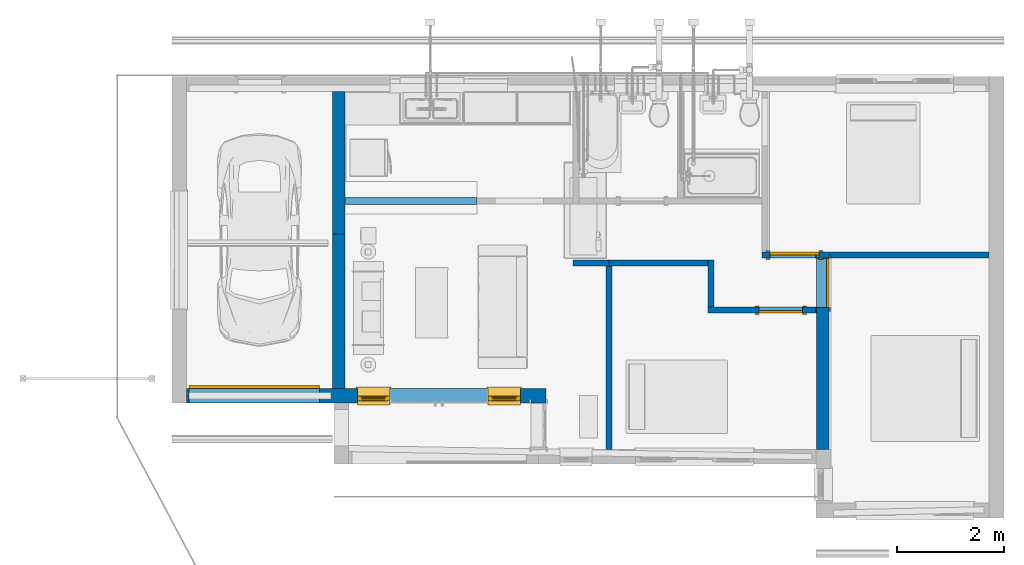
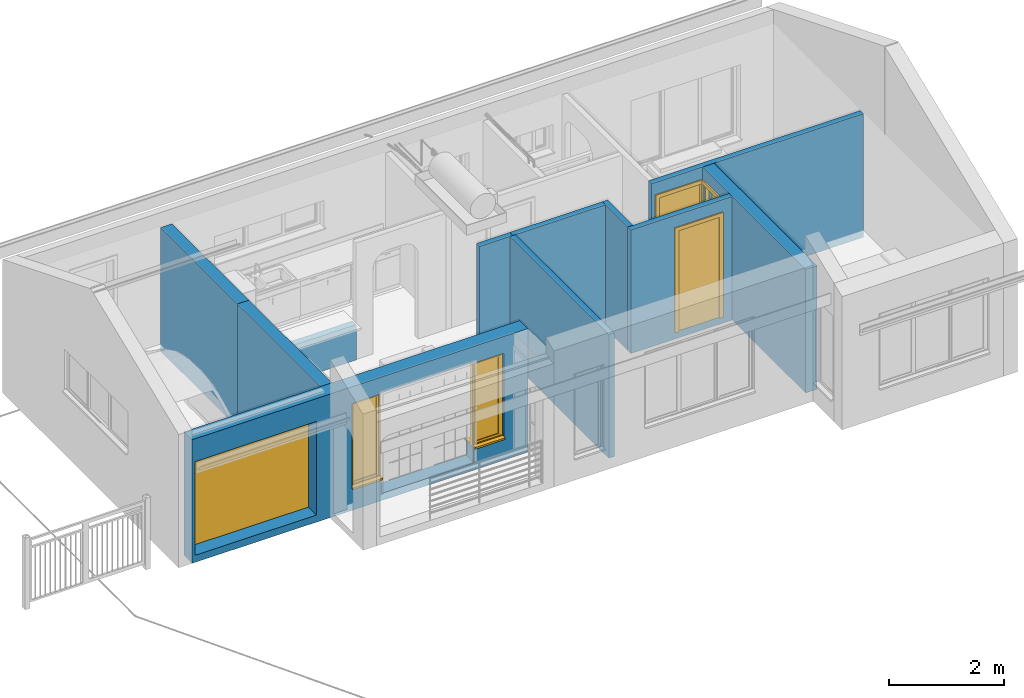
# One storey, part 3 of 41: 11 walls, 4 doors, 2 windows, 8 openings.
"""IFC2X3 building model written with IfcOpenShell, lengths in millimetres."""

import ifcopenshell
import ifcopenshell.guid

model = None  # the IFC model being written
_history = None  # IfcOwnerHistory: only IFC2X3 demands one
_inside = {}  # id of a spatial element -> (the spatial element, [elements in it])
_under = {}  # id of a project, library or spatial element -> (it, [spatial elements below it])
_declared = {}  # id of a project -> (the project, [libraries it declares])
_typed = {}  # id of a type object -> (the type object, [elements of that type])
_made_of = {}  # id of a material, layer set ... -> (it, [elements and type objects made of it])


def new_model(schema):
    """Start an empty IFC model of exactly this schema.

    Asked for "IFC4X3", IfcOpenShell would pick the latest addendum, in which some entities
    have other attributes; the version numbers below select the first issue.
    IFC2X3 requires an IfcOwnerHistory on every rooted entity: one is made here for all.
    """
    global model, _history
    if schema == "IFC4X3":
        model = ifcopenshell.file(schema_version=(4, 3, 0, 0))
    else:
        model = ifcopenshell.file(schema=schema)
    _inside.clear()
    _under.clear()
    _declared.clear()
    _typed.clear()
    _made_of.clear()
    _history = None
    if model.schema == "IFC2X3":
        org = make("IfcOrganization", Name="unknown")
        user = make(
            "IfcPersonAndOrganization",
            ThePerson=make("IfcPerson", FamilyName="unknown"),
            TheOrganization=org,
        )
        app = make(
            "IfcApplication",
            ApplicationDeveloper=org,
            Version="unknown",
            ApplicationFullName="unknown",
            ApplicationIdentifier="unknown",
        )
        _history = make(
            "IfcOwnerHistory",
            OwningUser=user,
            OwningApplication=app,
            ChangeAction="ADDED",
            CreationDate=0,
        )
    return model


def make(cls, **values):
    """One entity of the class cls with the attributes given. An attribute that is None is left unset."""
    return model.create_entity(
        cls, **{name: value for name, value in values.items() if value is not None}
    )


def entity(cls, *values):
    """Any entity or typed value of the class cls, its attributes in the order of the schema. None: left unset."""
    e = model.create_entity(cls)
    for i, value in enumerate(values):
        if value is not None:
            e[i] = value
    return e


def rooted(cls, **values):
    """An entity with a GlobalId (a new one), such as an element, a storey or a relation."""
    return make(cls, GlobalId=ifcopenshell.guid.new(), OwnerHistory=_history, **values)


def si_unit(unit_type, name, prefix=None):
    """IfcSIUnit, for example si_unit("LENGTHUNIT", "METRE", prefix="MILLI")."""
    return make("IfcSIUnit", UnitType=unit_type, Prefix=prefix, Name=name)


def converted_unit(unit_type, name, factor, base, dimensions=None, offset=None):
    """IfcConversionBasedUnit, such as the inch: factor (a typed value) times the base unit."""
    return make(
        "IfcConversionBasedUnit"
        if offset is None
        else "IfcConversionBasedUnitWithOffset",
        ConversionOffset=offset,
        Dimensions=None
        if dimensions is None
        else entity("IfcDimensionalExponents", *dimensions),
        UnitType=unit_type,
        Name=name,
        ConversionFactor=make(
            "IfcMeasureWithUnit", ValueComponent=factor, UnitComponent=base
        ),
    )


def derived_unit(unit_type, elements):
    """IfcDerivedUnit: a product of units, each with its exponent."""
    return make(
        "IfcDerivedUnit",
        Elements=[
            make("IfcDerivedUnitElement", Unit=unit, Exponent=power)
            for unit, power in elements
        ],
        UnitType=unit_type,
    )


def assignment(units):
    """IfcUnitAssignment: the units of a project."""
    return None if units is None else make("IfcUnitAssignment", Units=units)


def point(xyz):
    """IfcCartesianPoint."""
    return None if xyz is None else make("IfcCartesianPoint", Coordinates=xyz)


def direction(xyz):
    """IfcDirection."""
    return None if xyz is None else make("IfcDirection", DirectionRatios=xyz)


def frame(location, z_axis=None, x_axis=None):
    """IfcAxis2Placement3D, a coordinate frame: its origin and axes. An axis left out is left unset."""
    return make(
        "IfcAxis2Placement3D",
        Location=point(location),
        Axis=direction(z_axis),
        RefDirection=direction(x_axis),
    )


def frame_2d(location, x_axis=None):
    """IfcAxis2Placement2D, a coordinate frame in the plane: its origin and x axis."""
    return make(
        "IfcAxis2Placement2D", Location=point(location), RefDirection=direction(x_axis)
    )


def origin():
    """The frame at (0, 0, 0) with its axes left unset."""
    return frame((0.0, 0.0, 0.0))


def origin_2d_with_axis():
    """The frame at (0, 0) in the plane with the x axis (1, 0) written out."""
    return frame_2d((0.0, 0.0), x_axis=(1.0, 0.0))


def place(relative_to, where):
    """IfcLocalPlacement: puts the frame where relative to a parent placement (None: the world)."""
    return make(
        "IfcLocalPlacement", PlacementRelTo=relative_to, RelativePlacement=where
    )


def context(
    kind, dimensions, precision=None, world=None, true_north=None, identifier=None
):
    """IfcGeometricRepresentationContext, for example the 3D "Model" context."""
    return make(
        "IfcGeometricRepresentationContext",
        ContextIdentifier=identifier,
        ContextType=kind,
        CoordinateSpaceDimension=dimensions,
        Precision=precision,
        WorldCoordinateSystem=world,
        TrueNorth=true_north,
    )


def subcontext(parent, identifier, kind, view, scale=None):
    """IfcGeometricRepresentationSubContext, for example "Body" below "Model"."""
    return make(
        "IfcGeometricRepresentationSubContext",
        ContextIdentifier=identifier,
        ContextType=kind,
        ParentContext=parent,
        TargetScale=scale,
        TargetView=view,
    )


def project(units=None, contexts=None):
    """IfcProject with its units and contexts."""
    return rooted(
        "IfcProject",
        Name="project",
        RepresentationContexts=contexts,
        UnitsInContext=assignment(units),
    )


def spatial(cls, under=None, at=None, **own):
    """A site, building, storey or space (cls), placed at a placement, below another one or the project."""
    s = rooted(cls, ObjectPlacement=at, **own)
    if under is not None:
        _under.setdefault(under.id(), (under, []))[1].append(s)
    return s


def polyline(points):
    """IfcPolyline through the points."""
    return make("IfcPolyline", Points=[point(p) for p in points])


def profile(cls, at=None, kind="AREA", **sizes):
    """A parametric profile (cls). Its sizes go by their IFC names, for example OverallWidth=200.0."""
    return make(cls, ProfileType=kind, Position=at, **sizes)


def rectangle(**sizes):
    """IfcRectangleProfileDef."""
    return profile("IfcRectangleProfileDef", **sizes)


def outline(outer, holes=None, kind="AREA"):
    """IfcArbitraryClosedProfileDef: a profile drawn as a closed curve; with holes, ...WithVoids."""
    if holes is None:
        return make("IfcArbitraryClosedProfileDef", ProfileType=kind, OuterCurve=outer)
    return make(
        "IfcArbitraryProfileDefWithVoids",
        ProfileType=kind,
        OuterCurve=outer,
        InnerCurves=holes,
    )


def extrude(swept, where, along, depth):
    """IfcExtrudedAreaSolid: the profile swept, set in the frame where, extruded along a direction by depth."""
    return make(
        "IfcExtrudedAreaSolid",
        SweptArea=swept,
        Position=where,
        ExtrudedDirection=direction(along),
        Depth=depth,
    )


def faces_of(points, faces, orient=None, outer=None):
    """IfcFace entities. A face is a list of loops; a loop is a list of indices into points, from 0.

    orient and outer hold one flag for each loop. By default every Orientation is true, the
    first loop of a face is its IfcFaceOuterBound and the others are IfcFaceBound.
    """
    made = []
    for i, loops in enumerate(faces):
        bounds = []
        for j, loop in enumerate(loops):
            is_outer = j == 0 if outer is None else outer[i][j]
            bounds.append(
                make(
                    "IfcFaceOuterBound" if is_outer else "IfcFaceBound",
                    Bound=make("IfcPolyLoop", Polygon=[points[k] for k in loop]),
                    Orientation=True if orient is None else orient[i][j],
                )
            )
        made.append(make("IfcFace", Bounds=bounds))
    return made


def faceted_brep(points, faces, orient=None, outer=None, voids=None):
    """IfcFacetedBrep: a solid bounded by flat faces; with voids (closed shells), ...WithVoids."""
    shared = [point(p) for p in points]
    hull = make("IfcClosedShell", CfsFaces=faces_of(shared, faces, orient, outer))
    if voids is None:
        return make("IfcFacetedBrep", Outer=hull)
    return make(
        "IfcFacetedBrepWithVoids",
        Outer=hull,
        Voids=[
            make(cls, CfsFaces=faces_of(shared, fs, o, b)) for cls, fs, o, b in voids
        ],
    )


def shape(context_of_items, identifier, shape_type, items):
    """IfcShapeRepresentation: the items that make up one representation, for example the "Body"."""
    return make(
        "IfcShapeRepresentation",
        ContextOfItems=context_of_items,
        RepresentationIdentifier=identifier,
        RepresentationType=shape_type,
        Items=items,
    )


def source(mapping_origin, context_of_items, identifier, shape_type, items):
    """IfcRepresentationMap: a shape defined once, which mapped items show again and again."""
    return make(
        "IfcRepresentationMap",
        MappingOrigin=mapping_origin,
        MappedRepresentation=shape(context_of_items, identifier, shape_type, items),
    )


def transform(
    local_origin,
    x_axis=None,
    y_axis=None,
    z_axis=None,
    scale=None,
    scale2=None,
    scale3=None,
    uniform=True,
):
    """IfcCartesianTransformationOperator3D, or its non-uniform kind. x_axis, y_axis, z_axis: its Axis1, 2, 3."""
    if uniform:
        return make(
            "IfcCartesianTransformationOperator3D",
            Axis1=direction(x_axis),
            Axis2=direction(y_axis),
            LocalOrigin=point(local_origin),
            Scale=scale,
            Axis3=direction(z_axis),
        )
    return make(
        "IfcCartesianTransformationOperator3DnonUniform",
        Axis1=direction(x_axis),
        Axis2=direction(y_axis),
        LocalOrigin=point(local_origin),
        Scale=scale,
        Axis3=direction(z_axis),
        Scale2=scale2,
        Scale3=scale3,
    )


def mapped(mapping_source, mapping_target):
    """IfcMappedItem: shows the shape of a source again, moved by a transform."""
    return make(
        "IfcMappedItem", MappingSource=mapping_source, MappingTarget=mapping_target
    )


def material(Name=None, Category=None):
    """IfcMaterial."""
    return make("IfcMaterial", Name=Name, Category=Category)


def material_list(materials):
    """IfcMaterialList."""
    return make("IfcMaterialList", Materials=materials)


def layer(
    of_material, thickness, ventilated=None, Name=None, Category=None, Priority=None
):
    """IfcMaterialLayer: one layer of a wall or slab, of a material (None: an air gap)."""
    return make(
        "IfcMaterialLayer",
        Material=of_material,
        LayerThickness=thickness,
        IsVentilated=ventilated,
        Name=Name,
        Category=Category,
        Priority=Priority,
    )


def layer_set(layers, Name=None):
    """IfcMaterialLayerSet."""
    return make("IfcMaterialLayerSet", MaterialLayers=layers, LayerSetName=Name)


def layer_usage(for_layer_set, set_direction, sense, offset, extent=None):
    """IfcMaterialLayerSetUsage: how a layer set lies in its element."""
    return make(
        "IfcMaterialLayerSetUsage",
        ForLayerSet=for_layer_set,
        LayerSetDirection=set_direction,
        DirectionSense=sense,
        OffsetFromReferenceLine=offset,
        ReferenceExtent=extent,
    )


def made_of(thing, what):
    """Note that an element or type object is made of a material, layer set ...; save() writes the relation."""
    if what is not None:
        _made_of.setdefault(what.id(), (what, []))[1].append(thing)
    return thing


def type_object(cls, material=None, **own):
    """A type object (cls), such as IfcWallType, which elements share."""
    return made_of(rooted(cls, **own), material)


def type_shapes(of_type, sources):
    """Give a type object the sources (RepresentationMaps) that its elements show as mapped items."""
    of_type.RepresentationMaps = sources


def element(
    cls,
    number,
    at=None,
    inside=None,
    cuts=None,
    type_object=None,
    material=None,
    context=None,
    identifier="Body",
    shape_type=None,
    held_by="IfcProductDefinitionShape",
    body=None,
    shapes=None,
    **own,
):
    """One element of the class cls, such as IfcWall. Its Tag is "e" and its number.

    at: its placement. inside: the storey or other place that contains it. cuts: it is an
    opening in that element (IfcRelVoidsElement). A single representation is given by context,
    identifier, shape_type and body (its items); several are given by shapes. held_by: the class
    of the entity that holds the representations. save() writes the other relations.
    """
    e = rooted(cls, Tag="e%d" % number, ObjectPlacement=at, **own)
    if body is not None:
        shapes = [shape(context, identifier, shape_type, body)]
    if shapes is not None:
        e.Representation = make(held_by, Representations=shapes)
    if inside is not None:
        _inside.setdefault(inside.id(), (inside, []))[1].append(e)
    if cuts is not None:
        rooted(
            "IfcRelVoidsElement", RelatingBuildingElement=cuts, RelatedOpeningElement=e
        )
    if type_object is not None:
        _typed.setdefault(type_object.id(), (type_object, []))[1].append(e)
    return made_of(e, material)


def fill(opening, filler):
    """IfcRelFillsElement: the door or window that sits in an opening."""
    return rooted(
        "IfcRelFillsElement",
        RelatingOpeningElement=opening,
        RelatedBuildingElement=filler,
    )


def aggregate(whole, parts):
    """IfcRelAggregates: a whole, such as a stair, and the parts it consists of."""
    return rooted("IfcRelAggregates", RelatingObject=whole, RelatedObjects=parts)


def save(model, path):
    """Write the relations noted so far, then the file.

    IfcRelAggregates (storeys below a building ...), IfcRelContainedInSpatialStructure (elements
    in a storey), IfcRelDefinesByType, IfcRelAssociatesMaterial and IfcRelDeclares: one each for
    every whole, place, type object, material and project.
    """
    for whole, parts in _under.values():
        aggregate(whole, parts)
    for where, things in _inside.values():
        rooted(
            "IfcRelContainedInSpatialStructure",
            RelatedElements=things,
            RelatingStructure=where,
        )
    for kind, things in _typed.values():
        rooted("IfcRelDefinesByType", RelatedObjects=things, RelatingType=kind)
    for what, things in _made_of.values():
        rooted("IfcRelAssociatesMaterial", RelatedObjects=things, RelatingMaterial=what)
    for by, libraries in _declared.values():
        rooted("IfcRelDeclares", RelatingContext=by, RelatedDefinitions=libraries)
    model.write(path)


model = new_model("IFC2X3")

# Units and contexts
model_context = context("Model", 3, precision=0.01, world=origin(), true_north=direction((6.12303176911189e-17, 1.0)))
body_context = subcontext(model_context, "Body", "Model", "MODEL_VIEW")
ifc_project = project(units=[si_unit("LENGTHUNIT", "METRE", prefix="MILLI"), si_unit("AREAUNIT", "SQUARE_METRE"), si_unit("VOLUMEUNIT", "CUBIC_METRE"), converted_unit("PLANEANGLEUNIT", "DEGREE", entity("IfcRatioMeasure", 0.0174532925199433), si_unit("PLANEANGLEUNIT", "RADIAN"), dimensions=[0, 0, 0, 0, 0, 0, 0]), si_unit("MASSUNIT", "GRAM", prefix="KILO"), derived_unit("MASSDENSITYUNIT", [(si_unit("MASSUNIT", "GRAM", prefix="KILO"), 1), (si_unit("LENGTHUNIT", "METRE"), -3)]), si_unit("TIMEUNIT", "SECOND"), si_unit("FREQUENCYUNIT", "HERTZ"), si_unit("THERMODYNAMICTEMPERATUREUNIT", "DEGREE_CELSIUS"), derived_unit("THERMALTRANSMITTANCEUNIT", [(si_unit("MASSUNIT", "GRAM", prefix="KILO"), 1), (si_unit("THERMODYNAMICTEMPERATUREUNIT", "KELVIN"), -1), (si_unit("TIMEUNIT", "SECOND"), -3)]), derived_unit("VOLUMETRICFLOWRATEUNIT", [(si_unit("LENGTHUNIT", "METRE"), 3), (si_unit("TIMEUNIT", "SECOND"), -1)]), si_unit("ELECTRICCURRENTUNIT", "AMPERE"), si_unit("ELECTRICVOLTAGEUNIT", "VOLT"), si_unit("POWERUNIT", "WATT"), si_unit("FORCEUNIT", "NEWTON", prefix="KILO"), si_unit("ILLUMINANCEUNIT", "LUX"), si_unit("LUMINOUSFLUXUNIT", "LUMEN"), si_unit("LUMINOUSINTENSITYUNIT", "CANDELA"), derived_unit("USERDEFINED", [(si_unit("MASSUNIT", "GRAM", prefix="KILO"), -1), (si_unit("LENGTHUNIT", "METRE"), -2), (si_unit("TIMEUNIT", "SECOND"), 3), (si_unit("LUMINOUSFLUXUNIT", "LUMEN"), 1)]), derived_unit("LINEARVELOCITYUNIT", [(si_unit("LENGTHUNIT", "METRE"), 1), (si_unit("TIMEUNIT", "SECOND"), -1)]), si_unit("PRESSUREUNIT", "PASCAL"), derived_unit("USERDEFINED", [(si_unit("LENGTHUNIT", "METRE"), -2), (si_unit("MASSUNIT", "GRAM", prefix="KILO"), 1), (si_unit("TIMEUNIT", "SECOND"), -2)])], contexts=[model_context])

# Site, building, storey
site_placement = place(None, origin())
site = spatial("IfcSite", under=ifc_project, at=site_placement, Name="Surface", CompositionType="ELEMENT")
building_placement = place(site_placement, origin())
building = spatial("IfcBuilding", under=site, at=building_placement, CompositionType="ELEMENT")
storey_placement = place(building_placement, frame((0.0, 0.0, 300.0)))
storey = spatial("IfcBuildingStorey", under=building, at=storey_placement, Name="F.F.L", CompositionType="ELEMENT", Elevation=300.0)

# Wall, openings, door
ifc_material_1 = material(Name="Brickwork - Facebrick (Plettenberg Autumn)")
ifc_layer_1 = layer(ifc_material_1, 110.0)
ifc_layer_set_1 = layer_set([ifc_layer_1], Name="Basic Wall:BrickWall - 110mm (Ext.F&Int.F)")
ifc_layer_usage_1 = layer_usage(ifc_layer_set_1, "AXIS2", "POSITIVE", -55.0)
wall_type_1 = type_object("IfcWallType", Name="Basic Wall:BrickWall - 110mm (Ext.F&Int.F)", PredefinedType="STANDARD", material=ifc_layer_set_1)
wall_1_placement = place(storey_placement, frame((3183.1248299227, 7490.84008915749, -150.0), z_axis=(0.0, 0.0, 1.0), x_axis=(-1.0, 0.0, 0.0)))
wall_1 = element("IfcWallStandardCase", 1, at=wall_1_placement, inside=storey, type_object=wall_type_1, material=ifc_layer_usage_1, Name="Basic Wall:BrickWall - 110mm (Ext.F&Int.F)", ObjectType="Basic Wall:BrickWall - 110mm (Ext.F&Int.F)", context=body_context, shape_type="SweptSolid", body=[
    extrude(rectangle(XDim=4240.0, YDim=110.000000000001, at=frame_2d((2120.0, 0.0), x_axis=(-1.0, 0.0))), origin(), (0.0, 0.0, 1.0), 2615.0),
])
opening_1_placement = place(wall_1_placement, origin())
element("IfcOpeningElement", 2, at=opening_1_placement, cuts=wall_1, Name="Basic Wall:BrickWall - 110mm (Ext.F&Int.F)", ObjectType="Opening", context=body_context, shape_type="SweptSolid", body=[
    extrude(rectangle(XDim=2134.0, YDim=230.0, at=frame_2d((0.0, 0.0), x_axis=(0.0, 1.0))), frame((3105.0, 67.5000000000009, 1217.0), z_axis=(0.0, 1.0, 0.0), x_axis=(1.0, 0.0, 0.0)), (0.0, 0.0, 1.0), 915.0),
])
opening_2_placement = place(wall_1_placement, frame((4092.5, 55.0, 150.0)))
opening_2 = element("IfcOpeningElement", 3, at=opening_2_placement, cuts=wall_1, Name="M_Single-Flush:0915 x 2134mm:1", ObjectType="Opening", context=body_context, shape_type="SweptSolid", body=[
    extrude(rectangle(XDim=915.0, YDim=2134.0, at=frame_2d((1067.0, 457.5), x_axis=(0.0, -1.0))), frame((0.0, 0.0, 0.0), z_axis=(0.0, -1.0, 0.0), x_axis=(0.0, 0.0, 1.0)), (0.0, 0.0, 1.0), 110.0),
])
ifc_material_2 = material(Name="Door - Frame")
ifc_material_3 = material(Name="Door - Panel")
ifc_material_list_1 = material_list([ifc_material_2, ifc_material_3])
ifc_material_list_2 = material_list([ifc_material_2, ifc_material_3])
door_style_1 = type_object("IfcDoorStyle", Name="0915 x 2134mm", ConstructionType="NOTDEFINED", OperationType="SINGLE_SWING_LEFT", ParameterTakesPrecedence=False, Sizeable=False, material=ifc_material_list_2)
shared_shape_1 = source(origin(), body_context, "Body", "SweptSolid", [
    extrude(outline(polyline([(-533.5, -1124.0), (533.5, -1124.0), (533.5, 1086.0), (457.5, 1086.0), (457.5, -1048.0), (-457.5, -1048.0), (-457.5, 1086.0), (-533.5, 1086.0), (-533.5, -1124.0)])), frame((457.5, 135.0, 1086.0), z_axis=(0.0, -1.0, 0.0), x_axis=(-1.0, 0.0, 0.0)), (0.0, 0.0, 1.0), 24.9999999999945),
    extrude(outline(polyline([(-1124.0, -533.499999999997), (1086.0, -533.499999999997), (1086.0, -457.500000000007), (-1048.0, -457.500000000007), (-1048.0, 457.500000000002), (1086.0, 457.500000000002), (1086.0, 533.500000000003), (-1124.0, 533.500000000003), (-1124.0, -533.499999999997)])), frame((457.499999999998, 0.0, 1086.0), z_axis=(0.0, -1.0, 0.0), x_axis=(0.0, 0.0, -1.0)), (0.0, 0.0, 1.0), 25.0000000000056),
    extrude(rectangle(XDim=915.0, YDim=51.0, at=origin_2d_with_axis()), frame((457.500000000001, 84.4999999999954, 0.0)), (0.0, 0.0, 1.0), 2134.0),
])
type_shapes(door_style_1, [shared_shape_1])
door_1_placement = place(opening_2_placement, frame((0.0, 0.0, 0.0), z_axis=(0.0, 0.0, 1.0), x_axis=(-1.0, 0.0, 0.0)))
door_1 = element("IfcDoor", 4, at=door_1_placement, inside=storey, type_object=door_style_1, material=ifc_material_list_1, Name="M_Single-Flush:0915 x 2134mm", ObjectType="0915 x 2134mm", OverallHeight=2134.0, OverallWidth=915.0, context=body_context, shape_type="MappedRepresentation", body=[
    mapped(shared_shape_1, transform((0.0, 0.0, 0.0), scale=1.0)),
])
fill(opening_2, door_1)

# Wall
ifc_layer_usage_2 = layer_usage(ifc_layer_set_1, "AXIS2", "POSITIVE", -55.0)
wall_2_placement = place(storey_placement, frame((-3921.8751700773, 3860.84008915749, -150.0), z_axis=(0.0, 0.0, 1.0), x_axis=(0.0, 1.0, 0.0)))
element("IfcWallStandardCase", 5, at=wall_2_placement, inside=storey, type_object=wall_type_1, material=ifc_layer_usage_2, Name="Basic Wall:BrickWall - 110mm (Ext.F&Int.F)", ObjectType="Basic Wall:BrickWall - 110mm (Ext.F&Int.F)", context=body_context, shape_type="SweptSolid", body=[
    extrude(rectangle(XDim=3425.0, YDim=110.0, at=frame_2d((1712.5, 1.31450406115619e-13), x_axis=(-1.0, 0.0))), origin(), (0.0, 0.0, 1.0), 2615.0),
])

# Wall, opening, door
ifc_layer_usage_3 = layer_usage(ifc_layer_set_1, "AXIS2", "POSITIVE", -55.0)
wall_3_placement = place(storey_placement, frame((-36.8751700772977, 6460.84008915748, -150.0), z_axis=(0.0, 0.0, 1.0), x_axis=(-1.0, 0.0, 0.0)))
wall_3 = element("IfcWallStandardCase", 6, at=wall_3_placement, inside=storey, type_object=wall_type_1, material=ifc_layer_usage_3, Name="Basic Wall:BrickWall - 110mm (Ext.F&Int.F)", ObjectType="Basic Wall:BrickWall - 110mm (Ext.F&Int.F)", context=body_context, shape_type="SweptSolid", body=[
    extrude(rectangle(XDim=2030.0, YDim=110.000000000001, at=frame_2d((1015.0, -8.17124146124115e-14), x_axis=(-1.0, 0.0))), origin(), (0.0, 0.0, 1.0), 2615.0),
])
opening_3_placement = place(wall_3_placement, frame((268.49999999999, -55.0, 150.0)))
opening_3 = element("IfcOpeningElement", 7, at=opening_3_placement, cuts=wall_3, Name="M_Single-Flush:0813 x 2134mm:1", ObjectType="Opening", context=body_context, shape_type="SweptSolid", body=[
    extrude(rectangle(XDim=813.0, YDim=2134.0, at=frame_2d((1067.0, 406.5), x_axis=(0.0, 1.0))), frame((0.0, 0.0, 0.0), z_axis=(0.0, 1.0, 0.0), x_axis=(0.0, 0.0, 1.0)), (0.0, 0.0, 1.0), 110.0),
])
ifc_material_list_3 = material_list([ifc_material_2, ifc_material_3])
ifc_material_list_4 = material_list([ifc_material_2, ifc_material_3])
door_style_2 = type_object("IfcDoorStyle", Name="0813 x 2134mm", ConstructionType="NOTDEFINED", OperationType="SINGLE_SWING_RIGHT", ParameterTakesPrecedence=False, Sizeable=False, material=ifc_material_list_4)
shared_shape_2 = source(origin(), body_context, "Body", "SweptSolid", [
    extrude(outline(polyline([(-482.5, -1124.0), (482.5, -1124.0), (482.5, 1086.0), (406.5, 1086.0), (406.5, -1048.0), (-406.5, -1048.0), (-406.5, 1086.0), (-482.5, 1086.0), (-482.5, -1124.0)])), frame((406.500000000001, 110.0, 1086.0), z_axis=(0.0, 1.0, 0.0), x_axis=(1.0, 0.0, 0.0)), (0.0, 0.0, 1.0), 24.9999999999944),
    extrude(outline(polyline([(-1124.0, -482.499999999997), (1086.0, -482.499999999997), (1086.0, -406.500000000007), (-1048.0, -406.500000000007), (-1048.0, 406.500000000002), (1086.0, 406.500000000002), (1086.0, 482.500000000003), (-1124.0, 482.500000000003), (-1124.0, -482.499999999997)])), frame((406.500000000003, -25.0, 1086.0), z_axis=(0.0, 1.0, 0.0), x_axis=(0.0, 0.0, -1.0)), (0.0, 0.0, 1.0), 25.0000000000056),
    extrude(rectangle(XDim=51.0, YDim=813.0, at=origin_2d_with_axis()), frame((406.500000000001, 84.5000000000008, 0.0), z_axis=(0.0, 0.0, 1.0), x_axis=(0.0, 1.0, 0.0)), (0.0, 0.0, 1.0), 2134.0),
])
type_shapes(door_style_2, [shared_shape_2])
door_2_placement = place(opening_3_placement, origin())
door_2 = element("IfcDoor", 8, at=door_2_placement, inside=storey, type_object=door_style_2, material=ifc_material_list_3, Name="M_Single-Flush:0813 x 2134mm", ObjectType="0813 x 2134mm", OverallHeight=2134.0, OverallWidth=813.0, context=body_context, shape_type="MappedRepresentation", body=[
    mapped(shared_shape_2, transform((0.0, 0.0, 0.0), scale=1.0)),
])
fill(opening_3, door_2)

# Walls
ifc_layer_usage_4 = layer_usage(ifc_layer_set_1, "AXIS2", "POSITIVE", -55.0)
wall_4_placement = place(storey_placement, frame((-2011.8751700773, 6515.84008915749, -150.0), z_axis=(0.0, 0.0, 1.0), x_axis=(0.0, 1.0, 0.0)))
element("IfcWallStandardCase", 9, at=wall_4_placement, inside=storey, type_object=wall_type_1, material=ifc_layer_usage_4, Name="Basic Wall:BrickWall - 110mm (Ext.F&Int.F)", ObjectType="Basic Wall:BrickWall - 110mm (Ext.F&Int.F)", context=body_context, shape_type="SweptSolid", body=[
    extrude(rectangle(XDim=879.999999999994, YDim=110.0, at=frame_2d((439.999999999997, 3.90798504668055e-14), x_axis=(-1.0, 0.0))), origin(), (0.0, 0.0, 1.0), 2615.0),
])
ifc_layer_usage_5 = layer_usage(ifc_layer_set_1, "AXIS2", "NEGATIVE", 55.0)
wall_5_placement = place(storey_placement, frame((-4586.8751700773, 7340.84008915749, -150.0)))
element("IfcWallStandardCase", 10, at=wall_5_placement, inside=storey, type_object=wall_type_1, material=ifc_layer_usage_5, Name="Basic Wall:BrickWall - 110mm (Ext.F&Int.F)", ObjectType="Basic Wall:BrickWall - 110mm (Ext.F&Int.F)", context=body_context, shape_type="SweptSolid", body=[
    extrude(rectangle(XDim=665.000000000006, YDim=110.000000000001, at=frame_2d((332.500000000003, 1.4210854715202e-14), x_axis=(-1.0, 0.0))), origin(), (0.0, 0.0, 1.0), 2615.0),
])
ifc_layer_usage_6 = layer_usage(ifc_layer_set_1, "AXIS2", "NEGATIVE", 55.0)
wall_6_placement = place(storey_placement, frame((-3921.8751700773, 7340.84008915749, -150.0)))
element("IfcWallStandardCase", 11, at=wall_6_placement, inside=storey, type_object=wall_type_1, material=ifc_layer_usage_6, Name="Basic Wall:BrickWall - 110mm (Ext.F&Int.F)", ObjectType="Basic Wall:BrickWall - 110mm (Ext.F&Int.F)", context=body_context, shape_type="SweptSolid", body=[
    extrude(rectangle(XDim=1855.0, YDim=110.000000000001, at=frame_2d((927.499999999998, -1.95399252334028e-13), x_axis=(-1.0, 0.0))), origin(), (0.0, 0.0, 1.0), 2615.0),
])

# Wall, openings, windows, door
ifc_material_4 = material(Name="Plaster")
ifc_layer_2 = layer(ifc_material_4, 10.0)
ifc_material_5 = material(Name="Brickwork - 110mm (Stock)")
ifc_layer_3 = layer(ifc_material_5, 110.0)
ifc_material_6 = material(Name="Air Infiltration Barrier")
ifc_layer_4 = layer(ifc_material_6, 50.0)
ifc_layer_5 = layer(ifc_material_1, 110.0)
ifc_layer_set_2 = layer_set([ifc_layer_2, ifc_layer_3, ifc_layer_4, ifc_layer_5], Name="Basic Wall:BrickWall - 270mm (Ext.F&Int.S) 2")
ifc_layer_usage_7 = layer_usage(ifc_layer_set_2, "AXIS2", "NEGATIVE", 140.0)
wall_type_2 = type_object("IfcWallType", Name="Basic Wall:BrickWall - 270mm (Ext.F&Int.S) 2", PredefinedType="STANDARD", material=ifc_layer_set_2)
wall_7_placement = place(storey_placement, frame((-11816.8751700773, 4860.84008915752, -150.0)))
wall_7 = element("IfcWallStandardCase", 12, at=wall_7_placement, inside=storey, type_object=wall_type_2, material=ifc_layer_usage_7, Name="Basic Wall:BrickWall - 270mm (Ext.F&Int.S) 2", ObjectType="Basic Wall:BrickWall - 270mm (Ext.F&Int.S) 2", context=body_context, shape_type="SweptSolid", body=[
    extrude(rectangle(XDim=6720.00000000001, YDim=280.0, at=frame_2d((3360.0, 0.0), x_axis=(-1.0, 0.0))), origin(), (0.0, 0.0, 1.0), 2615.0),
])
opening_4_placement = place(wall_7_placement, frame((5642.5, 140.0, 150.0)))
element("IfcOpeningElement", 13, at=opening_4_placement, cuts=wall_7, Name="M_Door-Interior-Double-Full Glass-Wood:1800 x 2100mm:1", ObjectType="Opening", context=body_context, shape_type="SweptSolid", body=[
    extrude(rectangle(XDim=2125.0, YDim=1850.0, at=frame_2d((1062.5, 925.0), x_axis=(1.0, 0.0))), frame((0.0, 0.0, 0.0), z_axis=(0.0, -1.0, 0.0), x_axis=(0.0, 0.0, 1.0)), (0.0, 0.0, 1.0), 280.0),
])
opening_5_placement = place(wall_7_placement, frame((3795.0, 140.0, 460.0)))
opening_5 = element("IfcOpeningElement", 14, at=opening_5_placement, cuts=wall_7, Name="Sgl All Bars:M_Casement 2x3:1", ObjectType="Opening", context=body_context, shape_type="SweptSolid", body=[
    extrude(rectangle(XDim=1800.0, YDim=600.0, at=frame_2d((900.0, 300.0), x_axis=(-1.0, 0.0))), frame((0.0, 0.0, 0.0), z_axis=(0.0, -1.0, 0.0), x_axis=(0.0, 0.0, 1.0)), (0.0, 0.0, 1.0), 280.0),
])
opening_6_placement = place(wall_7_placement, frame((6240.0, 140.0, 460.0)))
opening_6 = element("IfcOpeningElement", 15, at=opening_6_placement, cuts=wall_7, Name="Sgl All Bars:M_Casement 2x3:1", ObjectType="Opening", context=body_context, shape_type="SweptSolid", body=[
    extrude(rectangle(XDim=1800.0, YDim=600.0, at=frame_2d((900.0, 300.0), x_axis=(-1.0, 0.0))), frame((0.0, 0.0, 0.0), z_axis=(0.0, -1.0, 0.0), x_axis=(0.0, 0.0, 1.0)), (0.0, 0.0, 1.0), 280.0),
])
opening_7_placement = place(wall_7_placement, frame((52.4999999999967, -140.0, 150.0)))
opening_7 = element("IfcOpeningElement", 16, at=opening_7_placement, cuts=wall_7, Name="M_Overhead-Sectional:2435 x 1981mm:1", ObjectType="Opening", context=body_context, shape_type="SweptSolid", body=[
    extrude(rectangle(XDim=1981.0, YDim=2435.0, at=frame_2d((990.5, 1217.5), x_axis=(1.0, 0.0))), frame((0.0, 0.0, 0.0), z_axis=(0.0, 1.0, 0.0), x_axis=(0.0, 0.0, 1.0)), (0.0, 0.0, 1.0), 280.0),
])
ifc_material_7 = material(Name="Meranti - Varnish Mat")
ifc_material_8 = material(Name="Glass")
ifc_material_list_5 = material_list([ifc_material_7, ifc_material_8])
ifc_material_list_6 = material_list([ifc_material_7, ifc_material_8])
window_style = type_object("IfcWindowStyle", Name="M_Casement 2x3", ConstructionType="NOTDEFINED", OperationType="SINGLE_PANEL", ParameterTakesPrecedence=False, Sizeable=False, material=ifc_material_list_6)
shared_shape_3 = source(origin(), body_context, "Body", "Brep", [
    faceted_brep([(-25.0, -25.0, 0.0), (-25.0, 0.0, 0.0), (0.0, 0.0, 0.0), (0.0, 147.0, 0.0), (600.0, 147.0, 0.0), (600.0, 0.0, 0.0), (625.0, 0.0, 0.0), (625.0, -25.0, 0.0), (-25.0, -25.0, 25.0), (625.0, -25.0, 25.0), (625.0, 0.0, 25.0), (600.0, 0.0, 25.0), (600.0, 147.0, 25.0), (0.0, 147.0, 25.0), (0.0, 0.0, 25.0), (-25.0, 0.0, 25.0)], [[[0, 1, 2, 3, 4, 5, 6, 7]], [[8, 9, 10, 11, 12, 13, 14, 15]], [[1, 0, 8, 15]], [[2, 1, 15, 14]], [[3, 2, 14, 13]], [[4, 3, 13, 12]], [[5, 4, 12, 11]], [[6, 5, 11, 10]], [[7, 6, 10, 9]], [[0, 7, 9, 8]]]),
    faceted_brep([(0.0, 147.0, 0.0), (600.0, 147.0, 0.0), (600.0, 147.0, 1800.0), (0.0, 147.0, 1800.0), (60.0, 147.0, 1740.0), (540.0, 147.0, 1740.0), (540.0, 147.0, 75.0), (60.0, 147.0, 75.0), (0.0, 230.0, 1800.0), (0.0, 230.0, 51.0), (0.0, 245.0, 49.6876700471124), (0.0, 245.0, 44.7449676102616), (0.0, 317.50000000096, 33.808884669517), (0.0, 317.500000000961, 0.0), (600.0, 230.0, 1800.0), (600.0, 230.0, 51.0), (40.0, 230.0, 1760.0), (40.0, 230.0, 63.0), (560.0, 230.0, 63.0), (560.0, 230.0, 1760.0), (40.0, 165.0, 1760.0), (40.0, 165.0, 63.0), (60.0, 165.0, 1740.0), (60.0, 165.0, 75.0), (540.0, 165.0, 75.0), (540.0, 165.0, 1740.0), (560.0, 165.0, 1760.0), (560.0, 165.0, 63.0), (600.0, 317.50000000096, 0.0), (600.0, 317.50000000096, 33.808884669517), (600.0, 245.0, 44.7449676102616), (600.0, 245.0, 49.6876700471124)], [[[0, 1, 2, 3], [4, 5, 6, 7]], [[0, 3, 8, 9, 10, 11, 12, 13]], [[9, 8, 14, 15], [16, 17, 18, 19]], [[17, 16, 20, 21]], [[22, 23, 24, 25], [20, 26, 27, 21]], [[22, 4, 7, 23]], [[3, 2, 14, 8]], [[16, 19, 26, 20]], [[5, 4, 22, 25]], [[15, 14, 2, 1, 28, 29, 30, 31]], [[19, 18, 27, 26]], [[5, 25, 24, 6]], [[28, 1, 0, 13]], [[29, 28, 13, 12]], [[30, 29, 12, 11]], [[31, 30, 11, 10]], [[15, 31, 10, 9]], [[21, 27, 18, 17]], [[7, 6, 24, 23]]], outer=[[True, False], [True], [True, False], [True], [False, True], [True], [True], [True], [True], [True], [True], [True], [True], [True], [True], [True], [True], [True], [True]]),
    faceted_brep([(530.0, 194.0, 93.0), (530.0, 194.0, 1730.0), (70.0, 194.0, 1730.0), (70.0, 194.0, 93.0), (530.0, 218.0, 93.0), (70.0, 218.0, 93.0), (70.0, 218.0, 1730.0), (530.0, 218.0, 1730.0)], [[[0, 1, 2, 3]], [[4, 5, 6, 7]], [[1, 0, 4, 7]], [[2, 1, 7, 6]], [[3, 2, 6, 5]], [[0, 3, 5, 4]]]),
    faceted_brep([(30.0, 230.0, 1770.0), (30.0, 235.773502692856, 1770.0), (30.0, 235.773502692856, 53.0), (30.0, 230.0, 53.0), (40.0, 165.0, 1760.0), (40.0, 230.0, 1760.0), (40.0, 230.0, 63.0), (40.0, 165.0, 63.0), (80.0, 179.492899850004, 1720.0), (69.8519622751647, 165.0, 1730.14803772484), (69.8519622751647, 165.0, 92.8519622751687), (80.0, 179.492899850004, 103.0), (80.0, 194.0, 1720.0), (80.0, 194.0, 103.0), (70.0, 218.0, 1730.0), (70.0, 194.0, 1730.0), (70.0, 194.0, 93.0), (70.0, 218.0, 93.0), (80.0, 235.773502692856, 1720.0), (80.0, 218.0, 1720.0), (80.0, 218.0, 103.0), (80.0, 235.773502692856, 103.0), (62.5542451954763, 241.547005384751, 1737.44575480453), (62.5542451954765, 241.547005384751, 85.5542451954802), (40.7846096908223, 241.547005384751, 1759.21539030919), (40.7846096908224, 241.547005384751, 63.784609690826), (570.0, 235.773502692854, 53.0), (570.0, 230.0, 53.0), (560.0, 230.0, 63.0), (560.0, 165.0, 63.0), (530.148037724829, 165.0, 92.8519622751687), (520.0, 179.492899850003, 103.0), (520.0, 194.0, 103.0), (530.0, 194.0, 93.0), (530.0, 218.0, 93.0), (520.0, 218.0, 103.0), (520.0, 235.773502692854, 103.0), (537.445754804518, 241.547005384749, 85.5542451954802), (559.215390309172, 241.547005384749, 63.784609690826), (570.0, 235.773502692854, 1770.0), (570.0, 230.0, 1770.0), (560.0, 230.0, 1760.0), (560.0, 165.0, 1760.0), (530.148037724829, 165.0, 1730.14803772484), (520.0, 179.492899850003, 1720.0), (520.0, 194.0, 1720.0), (530.0, 194.0, 1730.0), (530.0, 218.0, 1730.0), (520.0, 218.0, 1720.0), (520.0, 235.773502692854, 1720.0), (537.445754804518, 241.547005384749, 1737.44575480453), (559.215390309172, 241.547005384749, 1759.21539030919)], [[[0, 1, 2, 3]], [[4, 5, 6, 7]], [[8, 9, 10, 11]], [[12, 8, 11, 13]], [[14, 15, 16, 17]], [[18, 19, 20, 21]], [[22, 18, 21, 23]], [[1, 24, 25, 2]], [[3, 2, 26, 27]], [[7, 6, 28, 29]], [[11, 10, 30, 31]], [[13, 11, 31, 32]], [[17, 16, 33, 34]], [[21, 20, 35, 36]], [[23, 21, 36, 37]], [[2, 25, 38, 26]], [[27, 26, 39, 40]], [[29, 28, 41, 42]], [[31, 30, 43, 44]], [[32, 31, 44, 45]], [[34, 33, 46, 47]], [[36, 35, 48, 49]], [[37, 36, 49, 50]], [[26, 38, 51, 39]], [[40, 39, 1, 0]], [[3, 27, 40, 0], [5, 41, 28, 6]], [[42, 41, 5, 4]], [[7, 29, 42, 4], [9, 43, 30, 10]], [[44, 43, 9, 8]], [[45, 44, 8, 12]], [[13, 32, 45, 12], [15, 46, 33, 16]], [[47, 46, 15, 14]], [[17, 34, 47, 14], [19, 48, 35, 20]], [[49, 48, 19, 18]], [[50, 49, 18, 22]], [[23, 37, 50, 22], [24, 51, 38, 25]], [[39, 51, 24, 1]]], outer=[[True], [True], [True], [True], [True], [True], [True], [True], [True], [True], [True], [True], [True], [True], [True], [True], [True], [True], [True], [True], [True], [True], [True], [True], [True], [True, False], [True], [True, False], [True], [True], [False, True], [True], [True, False], [True], [True], [False, True], [True]]),
    faceted_brep([(310.0, 210.0, 1184.33333333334), (310.0, 210.0, 638.666666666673), (530.148037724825, 210.0, 638.666666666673), (530.148037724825, 210.0, 618.666666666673), (310.0, 210.0, 618.666666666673), (310.0, 210.0, 93.0), (290.0, 210.0, 93.0), (290.0, 210.0, 618.666666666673), (69.8519622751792, 210.0, 618.666666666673), (69.8519622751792, 210.0, 638.666666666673), (290.0, 210.0, 638.666666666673), (290.0, 210.0, 1184.33333333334), (69.8519622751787, 210.0, 1184.33333333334), (69.8519622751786, 210.0, 1204.33333333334), (290.0, 210.0, 1204.33333333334), (290.0, 210.0, 1730.0), (310.0, 210.0, 1730.0), (310.0, 210.0, 1204.33333333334), (530.148037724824, 210.0, 1204.33333333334), (530.148037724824, 210.0, 1184.33333333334), (310.0, 202.0, 1184.33333333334), (530.148037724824, 202.0, 1184.33333333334), (530.148037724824, 202.0, 1204.33333333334), (310.0, 202.0, 1204.33333333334), (310.0, 202.0, 1730.0), (290.0, 202.0, 1730.0), (290.0, 202.0, 1204.33333333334), (69.8519622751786, 202.0, 1204.33333333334), (69.8519622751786, 202.0, 1184.33333333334), (290.0, 202.0, 1184.33333333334), (290.0, 202.0, 638.666666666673), (69.8519622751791, 202.0, 638.666666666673), (69.8519622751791, 202.0, 618.666666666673), (290.0, 202.0, 618.666666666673), (290.0, 202.0, 93.0), (310.0, 202.0, 93.0), (310.0, 202.0, 618.666666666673), (530.148037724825, 202.0, 618.666666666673), (530.148037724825, 202.0, 638.666666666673), (310.0, 202.0, 638.666666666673)], [[[0, 1, 2, 3, 4, 5, 6, 7, 8, 9, 10, 11, 12, 13, 14, 15, 16, 17, 18, 19]], [[20, 21, 22, 23, 24, 25, 26, 27, 28, 29, 30, 31, 32, 33, 34, 35, 36, 37, 38, 39]], [[1, 0, 20, 39]], [[2, 1, 39, 38]], [[3, 2, 38, 37]], [[4, 3, 37, 36]], [[5, 4, 36, 35]], [[6, 5, 35, 34]], [[7, 6, 34, 33]], [[8, 7, 33, 32]], [[9, 8, 32, 31]], [[10, 9, 31, 30]], [[11, 10, 30, 29]], [[12, 11, 29, 28]], [[13, 12, 28, 27]], [[14, 13, 27, 26]], [[15, 14, 26, 25]], [[16, 15, 25, 24]], [[17, 16, 24, 23]], [[18, 17, 23, 22]], [[19, 18, 22, 21]], [[0, 19, 21, 20]]]),
])
type_shapes(window_style, [shared_shape_3])
window_1_placement = place(opening_6_placement, frame((0.0, 0.0, 0.0), z_axis=(0.0, 0.0, 1.0), x_axis=(-1.0, 0.0, 0.0)))
window_1 = element("IfcWindow", 17, at=window_1_placement, inside=storey, type_object=window_style, material=ifc_material_list_5, Name="Sgl All Bars:M_Casement 2x3", ObjectType="M_Casement 2x3", OverallHeight=1800.0, OverallWidth=600.0, context=body_context, shape_type="MappedRepresentation", body=[
    mapped(shared_shape_3, transform((0.0, 0.0, 0.0), scale=1.0)),
])
fill(opening_6, window_1)
ifc_material_list_7 = material_list([ifc_material_7, ifc_material_8])
window_2_placement = place(opening_5_placement, frame((0.0, 0.0, 0.0), z_axis=(0.0, 0.0, 1.0), x_axis=(-1.0, 0.0, 0.0)))
window_2 = element("IfcWindow", 18, at=window_2_placement, inside=storey, type_object=window_style, material=ifc_material_list_7, Name="Sgl All Bars:M_Casement 2x3", ObjectType="M_Casement 2x3", OverallHeight=1800.0, OverallWidth=600.0, context=body_context, shape_type="MappedRepresentation", body=[
    mapped(shared_shape_3, transform((0.0, 0.0, 0.0), scale=1.0)),
])
fill(opening_5, window_2)
door_style_3 = type_object("IfcDoorStyle", Name="2435 x 1981mm", ConstructionType="NOTDEFINED", OperationType="NOTDEFINED", ParameterTakesPrecedence=False, Sizeable=False, material=ifc_material_7)
shared_shape_4 = source(origin(), body_context, "Body", "SweptSolid", [
    extrude(rectangle(XDim=2435.0, YDim=51.0, at=frame_2d((0.0, -8.88178419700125e-15), x_axis=(1.0, 0.0))), frame((1217.5, -25.5, 0.0), z_axis=(0.0, 0.0, 1.0), x_axis=(-1.0, 0.0, 0.0)), (0.0, 0.0, 1.0), 1981.0),
])
type_shapes(door_style_3, [shared_shape_4])
door_3_placement = place(opening_7_placement, frame((2435.0, 280.0, 0.0), z_axis=(0.0, 0.0, 1.0), x_axis=(-1.0, 0.0, 0.0)))
door_3 = element("IfcDoor", 19, at=door_3_placement, inside=storey, type_object=door_style_3, material=ifc_material_7, Name="M_Overhead-Sectional:2435 x 1981mm", ObjectType="2435 x 1981mm", OverallHeight=1981.0, OverallWidth=2435.0, context=body_context, shape_type="MappedRepresentation", body=[
    mapped(shared_shape_4, transform((0.0, 0.0, 0.0), scale=1.0)),
])
fill(opening_7, door_3)

# Walls
ifc_layer_6 = layer(ifc_material_5, 110.0)
ifc_layer_7 = layer(ifc_material_4, 10.0)
ifc_layer_8 = layer(ifc_material_5, 110.0)
ifc_layer_set_3 = layer_set([ifc_layer_6, ifc_layer_7, ifc_layer_8], Name="Basic Wall:BrickWall - 230mm (Ext.S&Int.S)")
ifc_layer_usage_8 = layer_usage(ifc_layer_set_3, "AXIS2", "NEGATIVE", 115.0)
wall_type_3 = type_object("IfcWallType", Name="Basic Wall:BrickWall - 230mm (Ext.S&Int.S)", PredefinedType="STANDARD", material=ifc_layer_set_3)
wall_8_placement = place(storey_placement, frame((-8971.8751700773, 7880.84008915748, -150.0), z_axis=(0.0, 0.0, 1.0), x_axis=(0.0, 1.0, 0.0)))
element("IfcWallStandardCase", 20, at=wall_8_placement, inside=storey, type_object=wall_type_3, material=ifc_layer_usage_8, Name="Basic Wall:BrickWall - 230mm (Ext.S&Int.S)", ObjectType="Basic Wall:BrickWall - 230mm (Ext.S&Int.S)", context=body_context, shape_type="SweptSolid", body=[
    extrude(rectangle(XDim=2665.00000000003, YDim=230.0, at=frame_2d((1332.50000000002, -9.2370555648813e-14), x_axis=(-1.0, 0.0))), origin(), (0.0, 0.0, 1.0), 2615.0),
])
ifc_layer_usage_9 = layer_usage(ifc_layer_set_3, "AXIS2", "POSITIVE", -115.0)
wall_9_placement = place(storey_placement, frame((-8971.8751700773, 7880.84008915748, -150.0), z_axis=(0.0, 0.0, 1.0), x_axis=(0.0, -1.0, 0.0)))
element("IfcWallStandardCase", 21, at=wall_9_placement, inside=storey, type_object=wall_type_3, material=ifc_layer_usage_9, Name="Basic Wall:BrickWall - 230mm (Ext.S&Int.S)", ObjectType="Basic Wall:BrickWall - 230mm (Ext.S&Int.S)", context=body_context, shape_type="SweptSolid", body=[
    extrude(rectangle(XDim=2879.99999999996, YDim=230.0, at=frame_2d((1439.99999999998, 1.77635683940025e-13), x_axis=(-1.0, 0.0))), origin(), (0.0, 0.0, 1.0), 2615.0),
])

# Wall, opening, door
ifc_layer_usage_10 = layer_usage(ifc_layer_set_3, "AXIS2", "NEGATIVE", 115.0)
wall_10_placement = place(storey_placement, frame((78.124829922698, 3860.84008915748, -150.0), z_axis=(0.0, 0.0, 1.0), x_axis=(0.0, 1.0, 0.0)))
wall_10 = element("IfcWallStandardCase", 22, at=wall_10_placement, inside=storey, type_object=wall_type_3, material=ifc_layer_usage_10, Name="Basic Wall:BrickWall - 230mm (Ext.S&Int.S)", ObjectType="Basic Wall:BrickWall - 230mm (Ext.S&Int.S)", context=body_context, shape_type="SweptSolid", body=[
    extrude(rectangle(XDim=3575.00000000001, YDim=230.0, at=frame_2d((1787.5, 1.4210854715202e-14), x_axis=(-1.0, 0.0))), origin(), (0.0, 0.0, 1.0), 2615.0),
])
opening_8_placement = place(wall_10_placement, frame((3562.50000000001, 115.0, 150.0)))
opening_8 = element("IfcOpeningElement", 23, at=opening_8_placement, cuts=wall_10, Name="M_Single-Flush:0915 x 2134mm:1", ObjectType="Opening", context=body_context, shape_type="SweptSolid", body=[
    extrude(rectangle(XDim=915.0, YDim=2134.0, at=frame_2d((1067.0, 457.5), x_axis=(0.0, -1.0))), frame((0.0, 0.0, 0.0), z_axis=(0.0, -1.0, 0.0), x_axis=(0.0, 0.0, 1.0)), (0.0, 0.0, 1.0), 230.0),
])
ifc_material_list_8 = material_list([ifc_material_2, ifc_material_3])
ifc_material_list_9 = material_list([ifc_material_2, ifc_material_3])
door_style_4 = type_object("IfcDoorStyle", Name="0915 x 2134mm", ConstructionType="NOTDEFINED", OperationType="SINGLE_SWING_LEFT", ParameterTakesPrecedence=False, Sizeable=False, material=ifc_material_list_9)
shared_shape_5 = source(origin(), body_context, "Body", "SweptSolid", [
    extrude(outline(polyline([(-533.5, -1124.0), (533.5, -1124.0), (533.5, 1086.0), (457.5, 1086.0), (457.5, -1048.0), (-457.5, -1048.0), (-457.5, 1086.0), (-533.5, 1086.0), (-533.5, -1124.0)])), frame((457.5, 255.0, 1086.0), z_axis=(0.0, -1.0, 0.0), x_axis=(-1.0, 0.0, 0.0)), (0.0, 0.0, 1.0), 24.9999999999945),
    extrude(outline(polyline([(-1124.0, -533.499999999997), (1086.0, -533.499999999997), (1086.0, -457.500000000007), (-1048.0, -457.500000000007), (-1048.0, 457.500000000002), (1086.0, 457.500000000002), (1086.0, 533.500000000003), (-1124.0, 533.500000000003), (-1124.0, -533.499999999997)])), frame((457.499999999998, 0.0, 1086.0), z_axis=(0.0, -1.0, 0.0), x_axis=(0.0, 0.0, -1.0)), (0.0, 0.0, 1.0), 25.0000000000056),
    extrude(rectangle(XDim=915.0, YDim=51.0, at=frame_2d((0.0, 5.32907051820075e-15), x_axis=(1.0, 0.0))), frame((457.5, 204.499999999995, 0.0)), (0.0, 0.0, 1.0), 2134.0),
])
type_shapes(door_style_4, [shared_shape_5])
door_4_placement = place(opening_8_placement, frame((0.0, 0.0, 0.0), z_axis=(0.0, 0.0, 1.0), x_axis=(-1.0, 0.0, 0.0)))
door_4 = element("IfcDoor", 24, at=door_4_placement, inside=storey, type_object=door_style_4, material=ifc_material_list_8, Name="M_Single-Flush:0915 x 2134mm", ObjectType="0915 x 2134mm", OverallHeight=2134.0, OverallWidth=915.0, context=body_context, shape_type="MappedRepresentation", body=[
    mapped(shared_shape_5, transform((0.0, 0.0, 0.0), scale=1.0)),
])
fill(opening_8, door_4)

# Wall
ifc_layer_9 = layer(ifc_material_4, 10.0)
ifc_material_9 = material(Name="Brick, Common")
ifc_layer_10 = layer(ifc_material_9, 110.0)
ifc_layer_11 = layer(ifc_material_4, 10.0)
ifc_layer_set_4 = layer_set([ifc_layer_9, ifc_layer_10, ifc_layer_11], Name="Basic Wall:110mm BrickWall (Int.Pl&Ext.Pl)")
ifc_layer_usage_11 = layer_usage(ifc_layer_set_4, "AXIS2", "NEGATIVE", 65.0)
wall_type_4 = type_object("IfcWallType", Name="Basic Wall:110mm BrickWall (Int.Pl&Ext.Pl)", PredefinedType="STANDARD", material=ifc_layer_set_4)
wall_11_placement = place(storey_placement, frame((-6386.87517007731, 8500.8400891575, 0.0), z_axis=(0.0, 0.0, 1.0), x_axis=(-1.0, 0.0, 0.0)))
element("IfcWallStandardCase", 25, at=wall_11_placement, inside=storey, type_object=wall_type_4, material=ifc_layer_usage_11, Name="Basic Wall:110mm BrickWall (Int.Pl&Ext.Pl)", ObjectType="Basic Wall:110mm BrickWall (Int.Pl&Ext.Pl)", context=body_context, shape_type="SweptSolid", body=[
    extrude(rectangle(XDim=2470.0, YDim=130.000000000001, at=frame_2d((1235.0, 2.8421709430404e-14), x_axis=(-1.0, 0.0))), origin(), (0.0, 0.0, 1.0), 750.0),
])

save(model, "model.ifc")
